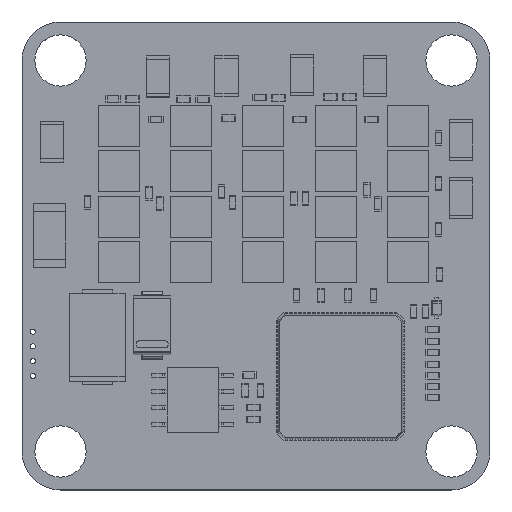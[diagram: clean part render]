
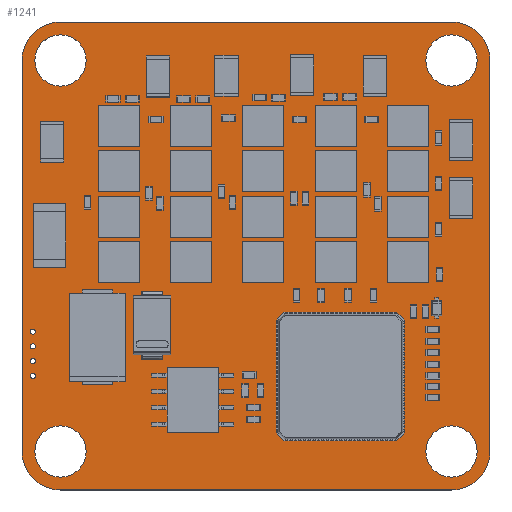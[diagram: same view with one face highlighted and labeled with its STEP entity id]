
A CAD part, top view. The second image highlights one B-rep face of the part: STEP entity #1241.
In plain terms, the highlighted planar face has unit normal (0, 0, 1).
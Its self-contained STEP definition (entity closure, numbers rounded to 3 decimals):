
#688 = VERTEX_POINT('',#689);
#689 = CARTESIAN_POINT('',(3.,0.,1.63));
#695 = EDGE_CURVE('',#688,#696,#698,.T.);
#696 = VERTEX_POINT('',#697);
#697 = CARTESIAN_POINT('',(0.,3.,1.63));
#698 = CIRCLE('',#699,3.001);
#699 = AXIS2_PLACEMENT_3D('',#700,#701,#702);
#700 = CARTESIAN_POINT('',(3.001,3.001,1.63));
#701 = DIRECTION('',(0.,0.,-1.));
#702 = DIRECTION('',(0.,-1.,-0.));
#728 = EDGE_CURVE('',#696,#729,#731,.T.);
#729 = VERTEX_POINT('',#730);
#730 = CARTESIAN_POINT('',(0.,33.5,1.63));
#731 = LINE('',#732,#733);
#732 = CARTESIAN_POINT('',(0.,3.,1.63));
#733 = VECTOR('',#734,1.);
#734 = DIRECTION('',(0.,1.,0.));
#759 = EDGE_CURVE('',#729,#760,#762,.T.);
#760 = VERTEX_POINT('',#761);
#761 = CARTESIAN_POINT('',(3.,36.5,1.63));
#762 = CIRCLE('',#763,3.001);
#763 = AXIS2_PLACEMENT_3D('',#764,#765,#766);
#764 = CARTESIAN_POINT('',(3.001,33.499,1.63));
#765 = DIRECTION('',(0.,0.,-1.));
#766 = DIRECTION('',(-1.,0.,0.));
#792 = EDGE_CURVE('',#760,#793,#795,.T.);
#793 = VERTEX_POINT('',#794);
#794 = CARTESIAN_POINT('',(33.5,36.5,1.63));
#795 = LINE('',#796,#797);
#796 = CARTESIAN_POINT('',(3.,36.5,1.63));
#797 = VECTOR('',#798,1.);
#798 = DIRECTION('',(1.,0.,0.));
#823 = EDGE_CURVE('',#793,#824,#826,.T.);
#824 = VERTEX_POINT('',#825);
#825 = CARTESIAN_POINT('',(36.5,33.5,1.63));
#826 = CIRCLE('',#827,3.001);
#827 = AXIS2_PLACEMENT_3D('',#828,#829,#830);
#828 = CARTESIAN_POINT('',(33.499,33.499,1.63));
#829 = DIRECTION('',(0.,0.,-1.));
#830 = DIRECTION('',(0.,1.,0.));
#856 = EDGE_CURVE('',#824,#857,#859,.T.);
#857 = VERTEX_POINT('',#858);
#858 = CARTESIAN_POINT('',(36.5,3.,1.63));
#859 = LINE('',#860,#861);
#860 = CARTESIAN_POINT('',(36.5,33.5,1.63));
#861 = VECTOR('',#862,1.);
#862 = DIRECTION('',(0.,-1.,0.));
#887 = EDGE_CURVE('',#857,#888,#890,.T.);
#888 = VERTEX_POINT('',#889);
#889 = CARTESIAN_POINT('',(33.5,0.,1.63));
#890 = CIRCLE('',#891,3.001);
#891 = AXIS2_PLACEMENT_3D('',#892,#893,#894);
#892 = CARTESIAN_POINT('',(33.499,3.001,1.63));
#893 = DIRECTION('',(0.,0.,-1.));
#894 = DIRECTION('',(1.,0.,0.));
#920 = EDGE_CURVE('',#888,#688,#921,.T.);
#921 = LINE('',#922,#923);
#922 = CARTESIAN_POINT('',(33.5,0.,1.63));
#923 = VECTOR('',#924,1.);
#924 = DIRECTION('',(-1.,0.,0.));
#944 = VERTEX_POINT('',#945);
#945 = CARTESIAN_POINT('',(1.05,10.05,1.63));
#951 = EDGE_CURVE('',#944,#944,#952,.T.);
#952 = CIRCLE('',#953,0.2);
#953 = AXIS2_PLACEMENT_3D('',#954,#955,#956);
#954 = CARTESIAN_POINT('',(0.85,10.05,1.63));
#955 = DIRECTION('',(0.,0.,1.));
#956 = DIRECTION('',(1.,0.,-0.));
#977 = VERTEX_POINT('',#978);
#978 = CARTESIAN_POINT('',(1.05,8.9,1.63));
#984 = EDGE_CURVE('',#977,#977,#985,.T.);
#985 = CIRCLE('',#986,0.2);
#986 = AXIS2_PLACEMENT_3D('',#987,#988,#989);
#987 = CARTESIAN_POINT('',(0.85,8.9,1.63));
#988 = DIRECTION('',(0.,0.,1.));
#989 = DIRECTION('',(1.,0.,-0.));
#1010 = VERTEX_POINT('',#1011);
#1011 = CARTESIAN_POINT('',(1.05,12.35,1.63));
#1017 = EDGE_CURVE('',#1010,#1010,#1018,.T.);
#1018 = CIRCLE('',#1019,0.2);
#1019 = AXIS2_PLACEMENT_3D('',#1020,#1021,#1022);
#1020 = CARTESIAN_POINT('',(0.85,12.35,1.63));
#1021 = DIRECTION('',(0.,0.,1.));
#1022 = DIRECTION('',(1.,0.,-0.));
#1043 = VERTEX_POINT('',#1044);
#1044 = CARTESIAN_POINT('',(1.05,11.2,1.63));
#1050 = EDGE_CURVE('',#1043,#1043,#1051,.T.);
#1051 = CIRCLE('',#1052,0.2);
#1052 = AXIS2_PLACEMENT_3D('',#1053,#1054,#1055);
#1053 = CARTESIAN_POINT('',(0.85,11.2,1.63));
#1054 = DIRECTION('',(0.,0.,1.));
#1055 = DIRECTION('',(1.,0.,-0.));
#1076 = VERTEX_POINT('',#1077);
#1077 = CARTESIAN_POINT('',(5.,3.,1.63));
#1083 = EDGE_CURVE('',#1076,#1076,#1084,.T.);
#1084 = CIRCLE('',#1085,2.);
#1085 = AXIS2_PLACEMENT_3D('',#1086,#1087,#1088);
#1086 = CARTESIAN_POINT('',(3.,3.,1.63));
#1087 = DIRECTION('',(0.,0.,1.));
#1088 = DIRECTION('',(1.,0.,-0.));
#1109 = VERTEX_POINT('',#1110);
#1110 = CARTESIAN_POINT('',(35.5,3.,1.63));
#1116 = EDGE_CURVE('',#1109,#1109,#1117,.T.);
#1117 = CIRCLE('',#1118,2.);
#1118 = AXIS2_PLACEMENT_3D('',#1119,#1120,#1121);
#1119 = CARTESIAN_POINT('',(33.5,3.,1.63));
#1120 = DIRECTION('',(0.,0.,1.));
#1121 = DIRECTION('',(1.,0.,-0.));
#1142 = VERTEX_POINT('',#1143);
#1143 = CARTESIAN_POINT('',(5.,33.5,1.63));
#1149 = EDGE_CURVE('',#1142,#1142,#1150,.T.);
#1150 = CIRCLE('',#1151,2.);
#1151 = AXIS2_PLACEMENT_3D('',#1152,#1153,#1154);
#1152 = CARTESIAN_POINT('',(3.,33.5,1.63));
#1153 = DIRECTION('',(0.,0.,1.));
#1154 = DIRECTION('',(1.,0.,-0.));
#1175 = VERTEX_POINT('',#1176);
#1176 = CARTESIAN_POINT('',(35.5,33.5,1.63));
#1182 = EDGE_CURVE('',#1175,#1175,#1183,.T.);
#1183 = CIRCLE('',#1184,2.);
#1184 = AXIS2_PLACEMENT_3D('',#1185,#1186,#1187);
#1185 = CARTESIAN_POINT('',(33.5,33.5,1.63));
#1186 = DIRECTION('',(0.,0.,1.));
#1187 = DIRECTION('',(1.,0.,-0.));
#1241 = ADVANCED_FACE('',(#1242,#1252,#1255,#1258,#1261,#1264,#1267,
    #1270,#1273),#1276,.F.);
#1242 = FACE_BOUND('',#1243,.F.);
#1243 = EDGE_LOOP('',(#1244,#1245,#1246,#1247,#1248,#1249,#1250,#1251));
#1244 = ORIENTED_EDGE('',*,*,#695,.T.);
#1245 = ORIENTED_EDGE('',*,*,#728,.T.);
#1246 = ORIENTED_EDGE('',*,*,#759,.T.);
#1247 = ORIENTED_EDGE('',*,*,#792,.T.);
#1248 = ORIENTED_EDGE('',*,*,#823,.T.);
#1249 = ORIENTED_EDGE('',*,*,#856,.T.);
#1250 = ORIENTED_EDGE('',*,*,#887,.T.);
#1251 = ORIENTED_EDGE('',*,*,#920,.T.);
#1252 = FACE_BOUND('',#1253,.F.);
#1253 = EDGE_LOOP('',(#1254));
#1254 = ORIENTED_EDGE('',*,*,#951,.T.);
#1255 = FACE_BOUND('',#1256,.F.);
#1256 = EDGE_LOOP('',(#1257));
#1257 = ORIENTED_EDGE('',*,*,#984,.T.);
#1258 = FACE_BOUND('',#1259,.F.);
#1259 = EDGE_LOOP('',(#1260));
#1260 = ORIENTED_EDGE('',*,*,#1017,.T.);
#1261 = FACE_BOUND('',#1262,.F.);
#1262 = EDGE_LOOP('',(#1263));
#1263 = ORIENTED_EDGE('',*,*,#1050,.T.);
#1264 = FACE_BOUND('',#1265,.F.);
#1265 = EDGE_LOOP('',(#1266));
#1266 = ORIENTED_EDGE('',*,*,#1083,.T.);
#1267 = FACE_BOUND('',#1268,.F.);
#1268 = EDGE_LOOP('',(#1269));
#1269 = ORIENTED_EDGE('',*,*,#1116,.T.);
#1270 = FACE_BOUND('',#1271,.F.);
#1271 = EDGE_LOOP('',(#1272));
#1272 = ORIENTED_EDGE('',*,*,#1149,.T.);
#1273 = FACE_BOUND('',#1274,.F.);
#1274 = EDGE_LOOP('',(#1275));
#1275 = ORIENTED_EDGE('',*,*,#1182,.T.);
#1276 = PLANE('',#1277);
#1277 = AXIS2_PLACEMENT_3D('',#1278,#1279,#1280);
#1278 = CARTESIAN_POINT('',(18.25,18.25,1.63));
#1279 = DIRECTION('',(-0.,-0.,-1.));
#1280 = DIRECTION('',(-1.,0.,0.));
